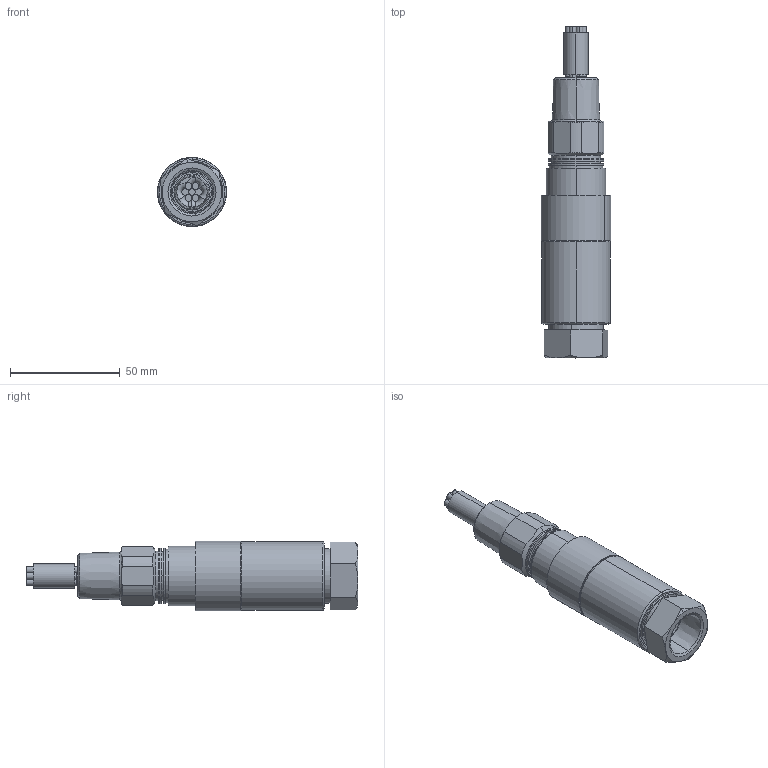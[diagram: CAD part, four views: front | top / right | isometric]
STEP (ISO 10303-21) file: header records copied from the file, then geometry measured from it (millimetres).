
FILE_DESCRIPTION (( 'STEP AP214' ), '1' );
FILE_NAME ('12SXXN5_6_A_H.STEP', '2025-04-01T19:24:41', ( '' ), ( '' ), 'SwSTEP 2.0', 'SolidWorks 2023', '' );
FILE_SCHEMA (( 'AUTOMOTIVE_DESIGN' ));
Length unit declared in the file: inch
Products named in the file (1): 12SXXN5_6_A_H
Bounding box: 31.45 x 150.9 x 31.45 mm (x, y, z)
Surface area: 22533.2 mm2 (no closed solid volume)
Topology: 0 solids, 9 shells, 140 faces, 334 edges, 213 vertices
Faces by surface type: cylinder 51, plane 37, cone 32, torus 16, bspline 4
Entity records: 4515 total; most frequent: CARTESIAN_POINT 1229, DIRECTION 737, ORIENTED_EDGE 638, EDGE_CURVE 334, AXIS2_PLACEMENT_3D 321, VERTEX_POINT 213, CIRCLE 184, EDGE_LOOP 158
